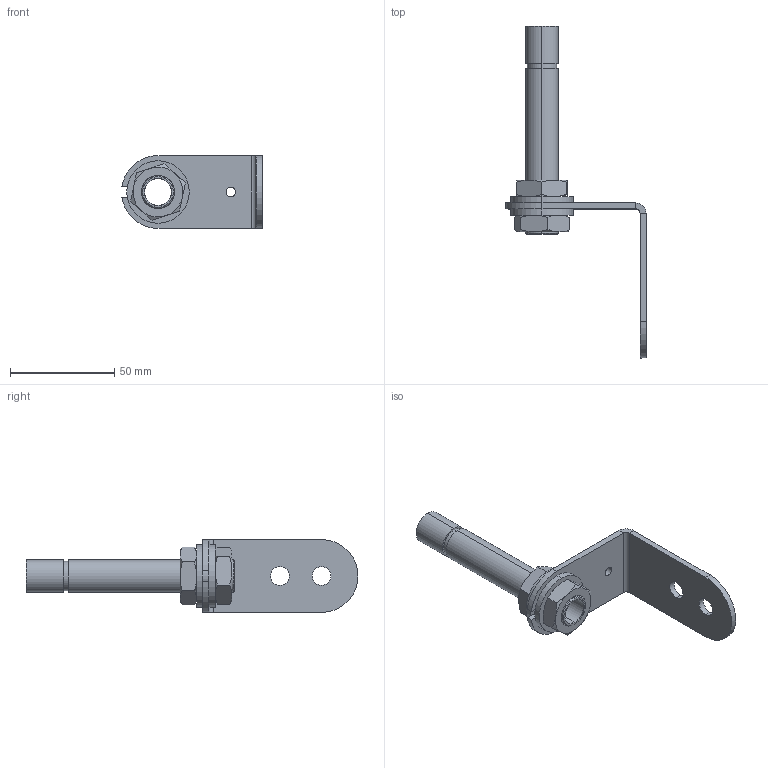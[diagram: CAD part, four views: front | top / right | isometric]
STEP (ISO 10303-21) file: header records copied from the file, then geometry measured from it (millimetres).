
FILE_DESCRIPTION (( 'STEP AP214' ), '1' );
FILE_NAME ('22050160010 - BR50-T100.STEP', '2014-11-12T10:36:21', ( '' ), ( '' ), 'SwSTEP 2.0', 'SolidWorks 2012', '' );
FILE_SCHEMA (( 'AUTOMOTIVE_DESIGN' ));
Length unit declared in the file: millimetre
Products named in the file (1): 22050160010 - BR50-T100
Bounding box: 67.32 x 159.5 x 35 mm (x, y, z)
Surface area: 23030.1 mm2 (no closed solid volume)
Topology: 0 solids, 6 shells, 83 faces, 196 edges, 124 vertices
Faces by surface type: plane 34, cone 26, cylinder 23
Entity records: 3521 total; most frequent: CARTESIAN_POINT 684, DIRECTION 410, ORIENTED_EDGE 362, EDGE_CURVE 196, AXIS2_PLACEMENT_3D 170, VERTEX_POINT 124, EDGE_LOOP 99, CIRCLE 86
